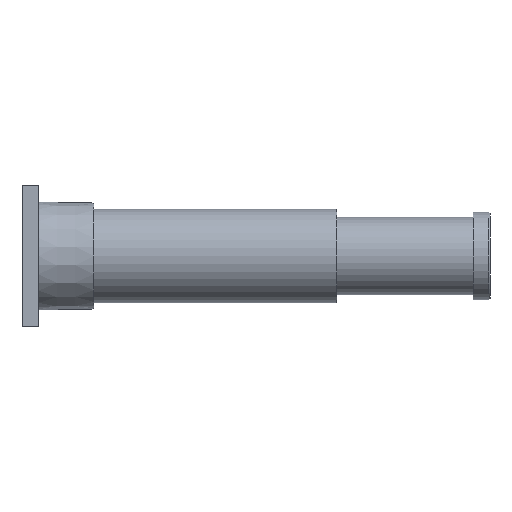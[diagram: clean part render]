
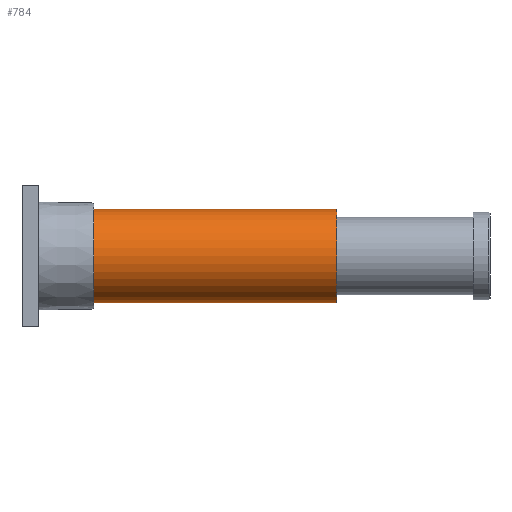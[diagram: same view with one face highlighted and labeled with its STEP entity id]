
A CAD part, front view. The second image highlights one B-rep face of the part: STEP entity #784.
In plain terms, the highlighted cylindrical face has radius 42.5 mm (diameter 85 mm), a partial arc.
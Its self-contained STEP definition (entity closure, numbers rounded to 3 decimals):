
#2 = VECTOR ( 'NONE', #379, 1000. ) ;
#29 = EDGE_CURVE ( 'NONE', #311, #609, #226, .T. ) ;
#53 = CARTESIAN_POINT ( 'NONE',  ( 50., 0., -42.5 ) ) ;
#75 = VERTEX_POINT ( 'NONE', #507 ) ;
#115 = EDGE_CURVE ( 'NONE', #127, #609, #910, .T. ) ;
#127 = VERTEX_POINT ( 'NONE', #608 ) ;
#209 = AXIS2_PLACEMENT_3D ( 'NONE', #664, #675, #652 ) ;
#226 = LINE ( 'NONE', #315, #2 ) ;
#304 = ORIENTED_EDGE ( 'NONE', *, *, #115, .T. ) ;
#311 = VERTEX_POINT ( 'NONE', #651 ) ;
#315 = CARTESIAN_POINT ( 'NONE',  ( 270., 0., -42.5 ) ) ;
#323 = ORIENTED_EDGE ( 'NONE', *, *, #835, .T. ) ;
#339 = CYLINDRICAL_SURFACE ( 'NONE', #209, 42.5 ) ;
#355 = ORIENTED_EDGE ( 'NONE', *, *, #1080, .T. ) ;
#379 = DIRECTION ( 'NONE',  ( -1., 0., 0. ) ) ;
#507 = CARTESIAN_POINT ( 'NONE',  ( 270., 0., 42.5 ) ) ;
#608 = CARTESIAN_POINT ( 'NONE',  ( 50., 0., 42.5 ) ) ;
#609 = VERTEX_POINT ( 'NONE', #53 ) ;
#635 = AXIS2_PLACEMENT_3D ( 'NONE', #770, #724, #797 ) ;
#651 = CARTESIAN_POINT ( 'NONE',  ( 270., 0., -42.5 ) ) ;
#652 = DIRECTION ( 'NONE',  ( 0., 0., 1. ) ) ;
#658 = FACE_OUTER_BOUND ( 'NONE', #1058, .T. ) ;
#664 = CARTESIAN_POINT ( 'NONE',  ( 270., 0., 0. ) ) ;
#675 = DIRECTION ( 'NONE',  ( -1., 0., 0. ) ) ;
#724 = DIRECTION ( 'NONE',  ( -1., 0., 0. ) ) ;
#728 = CARTESIAN_POINT ( 'NONE',  ( 50., 0., 0. ) ) ;
#732 = LINE ( 'NONE', #860, #963 ) ;
#733 = DIRECTION ( 'NONE',  ( 1., 0., 0. ) ) ;
#736 = DIRECTION ( 'NONE',  ( 0., 0., 1. ) ) ;
#770 = CARTESIAN_POINT ( 'NONE',  ( 270., 0., 0. ) ) ;
#783 = AXIS2_PLACEMENT_3D ( 'NONE', #728, #733, #736 ) ;
#784 = ADVANCED_FACE ( 'NONE', ( #658 ), #339, .T. ) ;
#797 = DIRECTION ( 'NONE',  ( 0., 0., 1. ) ) ;
#835 = EDGE_CURVE ( 'NONE', #75, #127, #732, .T. ) ;
#852 = DIRECTION ( 'NONE',  ( -1., 0., 0. ) ) ;
#860 = CARTESIAN_POINT ( 'NONE',  ( 270., 0., 42.5 ) ) ;
#887 = ORIENTED_EDGE ( 'NONE', *, *, #29, .F. ) ;
#910 = CIRCLE ( 'NONE', #783, 42.5 ) ;
#963 = VECTOR ( 'NONE', #852, 1000. ) ;
#1036 = CIRCLE ( 'NONE', #635, 42.5 ) ;
#1058 = EDGE_LOOP ( 'NONE', ( #887, #355, #323, #304 ) ) ;
#1080 = EDGE_CURVE ( 'NONE', #311, #75, #1036, .T. ) ;
